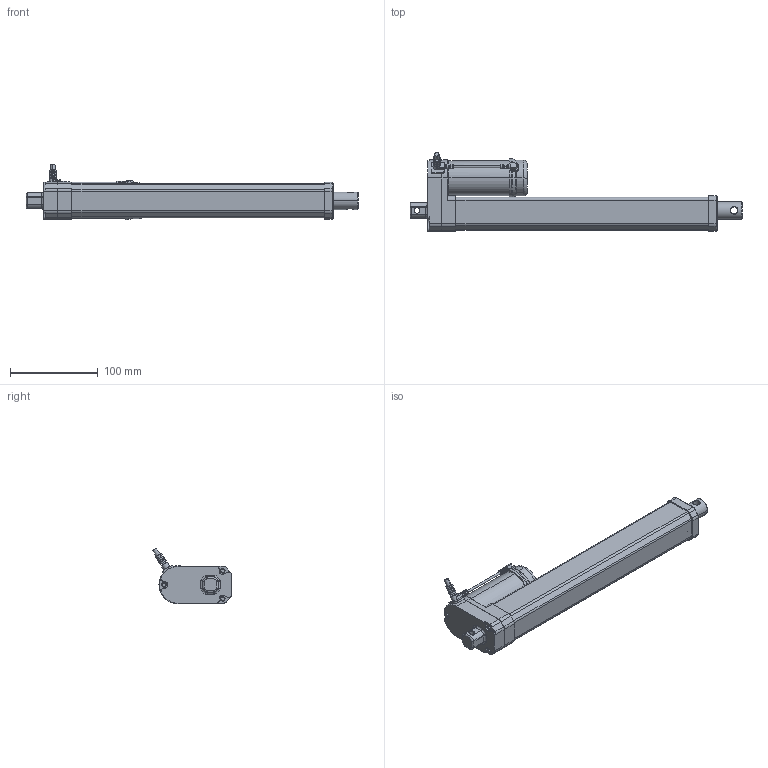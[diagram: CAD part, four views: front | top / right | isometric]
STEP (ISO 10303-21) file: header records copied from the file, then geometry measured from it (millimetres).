
FILE_DESCRIPTION((''),' ');
FILE_NAME('dszy11_250_hs2.stp',' ',('r'),('r'),' ','ACIS 14.0',' ');
FILE_SCHEMA(('automotive_design'));
Length unit declared in the file: inch
Products named in the file (3): DSZY11-HS2-250
Bounding box: 379 x 90.06 x 63.59 mm (x, y, z)
Volume: 302992 mm3; surface area: 151065.5 mm2
Topology: 3 solids, 3 shells, 466 faces, 1239 edges, 804 vertices
Faces by surface type: plane 213, cylinder 175, torus 41, cone 23, bspline 10, sphere 4
Entity records: 18855 total; most frequent: CARTESIAN_POINT 3102, DIRECTION 2630, ORIENTED_EDGE 2466, EDGE_CURVE 1233, AXIS2_PLACEMENT_3D 1011, VERTEX_POINT 804, LINE 608, VECTOR 608
